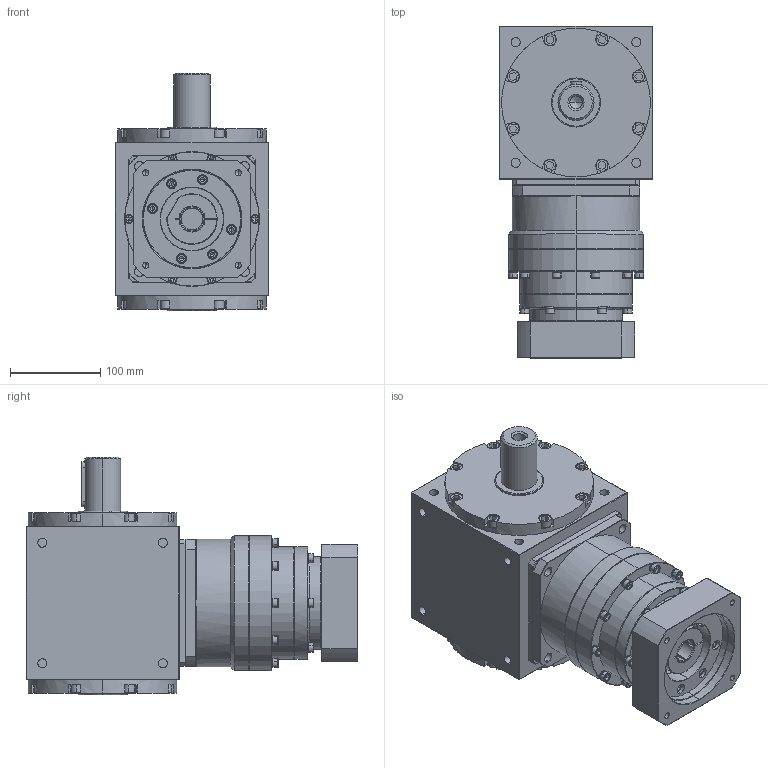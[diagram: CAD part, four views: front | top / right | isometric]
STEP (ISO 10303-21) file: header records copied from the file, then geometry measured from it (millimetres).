
FILE_DESCRIPTION (( 'STEP AP203' ), '1' );
FILE_NAME ('AT170-FL1-L2 24-110-145-M8.STEP', '2024-12-26T02:18:24', ( '' ), ( '' ), 'SwSTEP 2.0', 'SolidWorks 2021', '' );
FILE_SCHEMA (( 'CONFIG_CONTROL_DESIGN' ));
Length unit declared in the file: millimetre
Products named in the file (3): KS142L2-110-24-62-M8-145俋倛芞; AT170-FL1; AT170-FL1-L2 24-110-145-M8
Assembly tree (2 placements, depth 2):
  AT170-FL1-L2 24-110-145-M8
    AT170-FL1
    KS142L2-110-24-62-M8-145俋倛芞
Bounding box: 170 x 368.5 x 264 mm (x, y, z)
Volume: 8327419.9 mm3; surface area: 507178.5 mm2
Topology: 52 solids, 52 shells, 1598 faces, 3869 edges, 2404 vertices
Faces by surface type: plane 786, cylinder 547, cone 215, bspline 50
Entity records: 47392 total; most frequent: CARTESIAN_POINT 10008, DIRECTION 7993, ORIENTED_EDGE 7570, EDGE_CURVE 3785, AXIS2_PLACEMENT_3D 3019, VERTEX_POINT 2404, LINE 1955, VECTOR 1955
